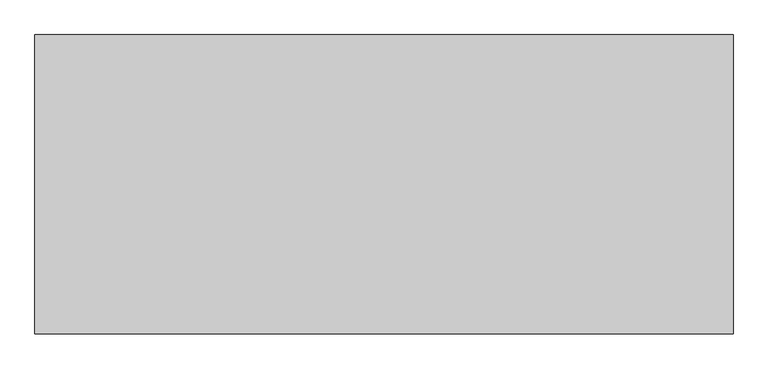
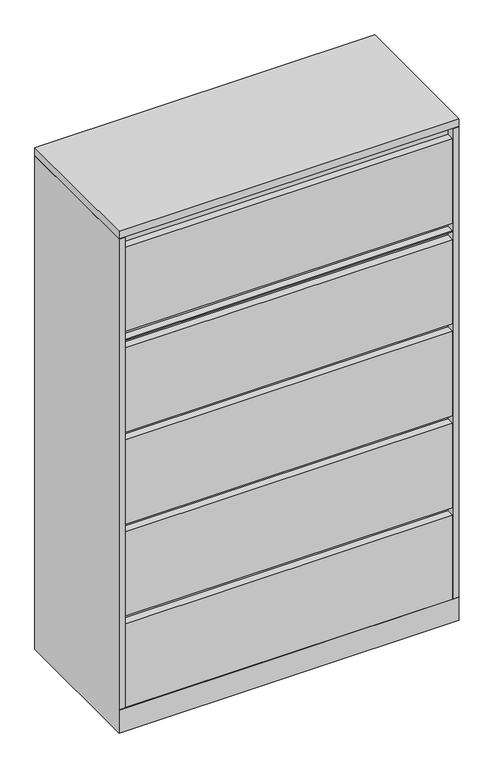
"""IFC4 building model written with IfcOpenShell, lengths in millimetres: furniture geometry, Steelcase - Universal Storage - Lateral File - 5 High - Flush Steel : 4 Drawers/1 Lift Up Door Fixed Shelf - 18D x 42W."""

from ifc_helpers import new_model, si_unit, frame, origin, place, context, project, spatial, polyline, outline, extrude, faceted_brep, source, transform, mapped, element, save


def furniture_5c68fc25(model_context):
    return source(origin(), model_context, "Body", "SolidModel", [
        extrude(outline(polyline([(1066.8, 457.2), (1066.8, 0.0), (0.0, 0.0), (0.0, 457.2), (1066.8, 457.2)])), frame((0.0, 0.0, 1638.2999516), z_axis=(0.0, 0.0, 1.0), x_axis=(1.0, 0.0, 0.0)), (0.0, 0.0, 1.0), 25.4),
        faceted_brep([(1066.8, 0.0, 0.0), (1066.8, 457.2, 0.0), (1066.8, 457.2, 1636.7759167), (1066.8, 0.0, 1636.7759167), (1066.8, 0.0, 77.7239985), (1066.8, 1.524, 77.7239985), (1066.8, 1.524, 76.2), (1066.8, 0.0, 76.2), (0.0, 0.0, 0.0), (0.0, 0.0, 76.2), (0.0, 1.524, 76.2), (0.0, 1.524, 77.7239985), (0.0, 0.0, 77.7239985), (0.0, 0.0, 1636.7759167), (0.0, 457.2, 1636.7759167), (0.0, 457.2, 0.0), (19.304, 0.0, 1636.7759167), (19.304, 25.4000121, 1636.7759167), (1047.496, 25.4000121, 1636.7759167), (1047.496, 0.0, 1636.7759167), (19.304, 25.4000121, 101.600003), (1047.496, 25.4000121, 101.600003), (19.304, 1.524, 101.600003), (1047.496, 1.524, 101.600003), (1047.496, 1.524, 77.7239985), (19.304, 1.524, 77.7239985), (19.304, 0.0, 77.7239985), (1047.496, 0.0, 77.7239985)], [[[0, 1, 2, 3, 4, 5, 6, 7]], [[8, 9, 10, 11, 12, 13, 14, 15]], [[1, 0, 8, 15]], [[2, 1, 15, 14]], [[3, 2, 14, 13, 16, 17, 18, 19]], [[17, 20, 21, 18]], [[20, 22, 23, 21]], [[10, 6, 5, 24, 23, 22, 25, 11]], [[7, 6, 10, 9]], [[0, 7, 9, 8]], [[17, 16, 26, 25, 22, 20]], [[26, 16, 13, 12]], [[25, 26, 12, 11]], [[24, 27, 19, 18, 21, 23]], [[27, 24, 5, 4]], [[19, 27, 4, 3]]]),
        extrude(outline(polyline([(1041.4000242, 431.7999992), (1041.4000242, 25.4000121), (25.4000008, 25.4000121), (25.4000008, 431.7999992), (1041.4000242, 431.7999992)])), frame((0.0, 0.0, 1636.7759167), z_axis=(0.0, 0.0, 1.0), x_axis=(1.0, 0.0, 0.0)), (0.0, 0.0, 1.0), 1.5240349),
        extrude(outline(polyline([(1045.9719835, 0.0), (20.8280006, 0.0), (20.8280006, 25.4000121), (1045.9719835, 25.4000121), (1045.9719835, 0.0)])), frame((0.0, 0.0, 1295.4), z_axis=(0.0, 0.0, 1.0), x_axis=(1.0, 0.0, 0.0)), (0.0, 0.0, 1.0), 3.1749516),
        extrude(outline(polyline([(1045.9719835, 0.0), (20.8280006, 0.0), (20.8280006, 25.4000121), (1045.9719835, 25.4000121), (1045.9719835, 0.0)])), frame((0.0, 0.0, 1323.975), z_axis=(0.0, 0.0, 1.0), x_axis=(1.0, 0.0, 0.0)), (0.0, 0.0, 1.0), 279.4),
        extrude(outline(polyline([(1045.9719835, 0.0), (20.8280006, 0.0), (20.8280006, 25.4000121), (1045.9719835, 25.4000121), (1045.9719835, 0.0)])), frame((0.0, 0.0, 990.6), z_axis=(0.0, 0.0, 1.0), x_axis=(1.0, 0.0, 0.0)), (0.0, 0.0, 1.0), 279.4),
        extrude(outline(polyline([(1045.9719835, 0.0), (20.8280006, 0.0), (20.8280006, 25.4000121), (1045.9719835, 25.4000121), (1045.9719835, 0.0)])), frame((0.0, 0.0, 685.8), z_axis=(0.0, 0.0, 1.0), x_axis=(1.0, 0.0, 0.0)), (0.0, 0.0, 1.0), 279.4),
        extrude(outline(polyline([(1045.9719835, 0.0), (20.8280006, 0.0), (20.8280006, 25.4000121), (1045.9719835, 25.4000121), (1045.9719835, 0.0)])), frame((0.0, 0.0, 381.0), z_axis=(0.0, 0.0, 1.0), x_axis=(1.0, 0.0, 0.0)), (0.0, 0.0, 1.0), 279.4),
        extrude(outline(polyline([(1045.9719835, 0.0), (20.8280006, 0.0), (20.8280006, 25.4000121), (1045.9719835, 25.4000121), (1045.9719835, 0.0)])), frame((0.0, 0.0, 77.7239985), z_axis=(0.0, 0.0, 1.0), x_axis=(1.0, 0.0, 0.0)), (0.0, 0.0, 1.0), 277.8759893),
    ])


if __name__ == "__main__":
    model = new_model("IFC4")
    model_context = context("Model", 3, world=origin())
    ifc_project = project(units=[si_unit("LENGTHUNIT", "METRE", prefix="MILLI")], contexts=[model_context])
    site = spatial("IfcSite", under=ifc_project)
    building = spatial("IfcBuilding", under=site)
    placement = place(None, origin())
    furniture_shape = furniture_5c68fc25(model_context)
    element("IfcFurniture", 1, ObjectType="Steelcase - Universal Storage - Lateral File - 5 High - Flush Steel : 4 Drawers/1 Lift Up Door Fixed Shelf - 18D x 42W", at=placement, inside=building, context=model_context, shape_type="MappedRepresentation", body=[
        mapped(furniture_shape, transform((0.0, 0.0, 0.0), x_axis=(1.0, 0.0, 0.0), y_axis=(0.0, 1.0, 0.0), z_axis=(0.0, 0.0, 1.0))),
    ])
    save(model, "model.ifc")
